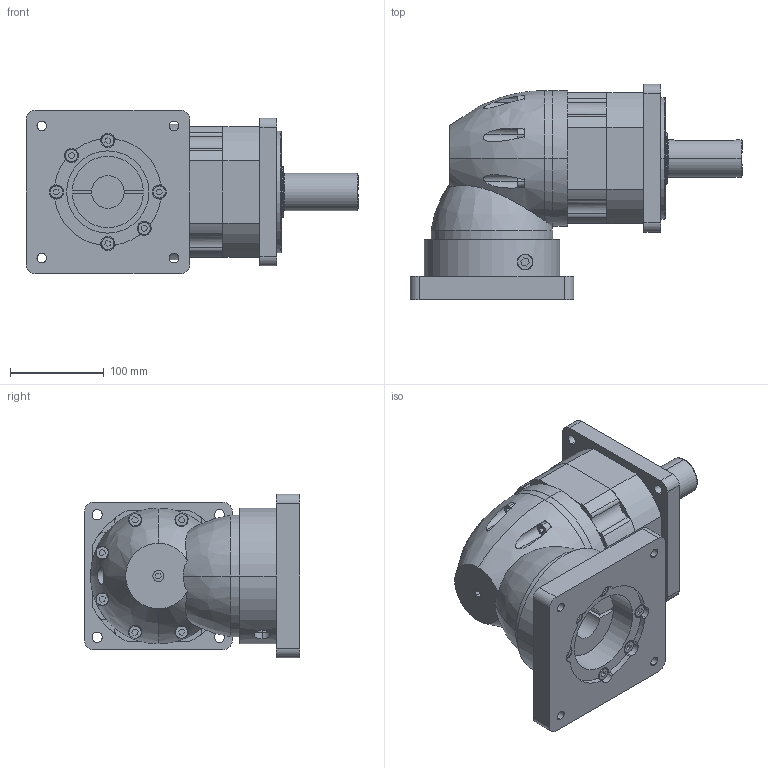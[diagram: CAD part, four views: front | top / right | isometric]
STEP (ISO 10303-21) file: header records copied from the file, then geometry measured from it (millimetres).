
FILE_DESCRIPTION (( 'STEP AP214' ), '1' );
FILE_NAME ('PLF160-L1-S2-P2 35-79 114.3-200-13.5.STEP', '2023-08-29T06:46:47', ( '微软用户' ), ( '微软中国' ), 'SwSTEP 2.0', 'SolidWorks 2018', '' );
FILE_SCHEMA (( 'AUTOMOTIVE_DESIGN' ));
Length unit declared in the file: millimetre
Products named in the file (1): PLF160-L1-S2-P2 35-79 114.3-200-13.5
Bounding box: 355 x 230 x 175 mm (x, y, z)
Volume: 5119582.5 mm3; surface area: 329801.1 mm2
Topology: 2 solids, 2 shells, 415 faces, 1024 edges, 661 vertices
Faces by surface type: plane 212, cylinder 178, bspline 13, cone 12
Entity records: 13553 total; most frequent: CARTESIAN_POINT 3442, DIRECTION 2185, ORIENTED_EDGE 2028, EDGE_CURVE 1014, AXIS2_PLACEMENT_3D 816, VERTEX_POINT 661, LINE 553, VECTOR 553
